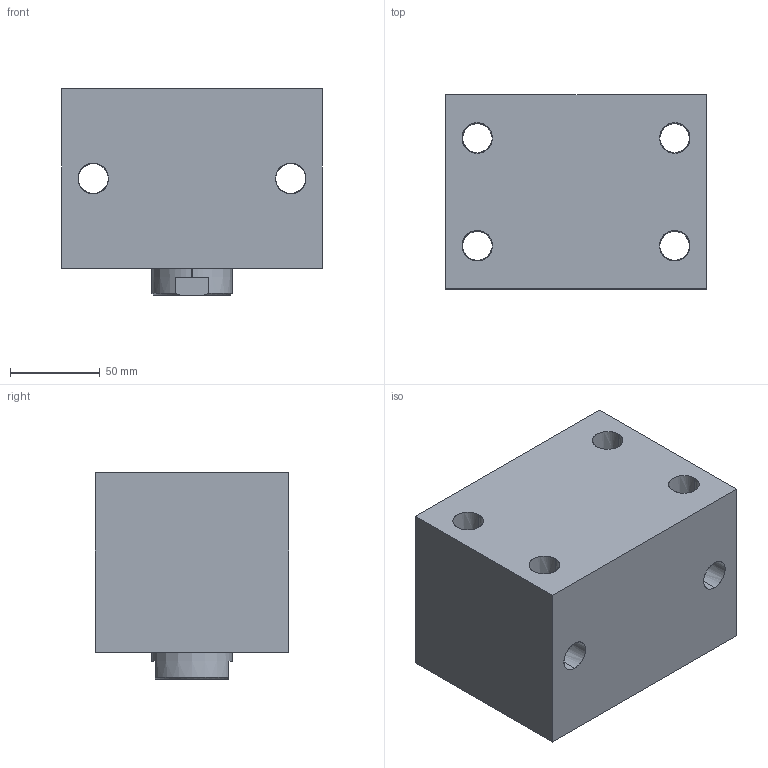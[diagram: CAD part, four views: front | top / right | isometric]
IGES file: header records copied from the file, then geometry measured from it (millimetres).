
Start section: SolidWorks IGES file using analytic representation for surfaces
Global section: file name: D:\karuppas\Clasp\3D model\Block cylinder B01C-Female thread\B01C-725F\Block cylinder B01C-725F.IGS; native system: SolidWorks 2017; preprocessor: SolidWorks 2017; author: pc; date: 220710.000551; units: millimetre
Bounding box: 145 x 108 x 115 mm (x, y, z)
Surface area: 142824.4 mm2 (no closed solid volume)
Topology: 0 solids, 0 shells, 339 faces, 5145 edges, 5139 vertices
Faces by surface type: bspline 287, revolution 52
